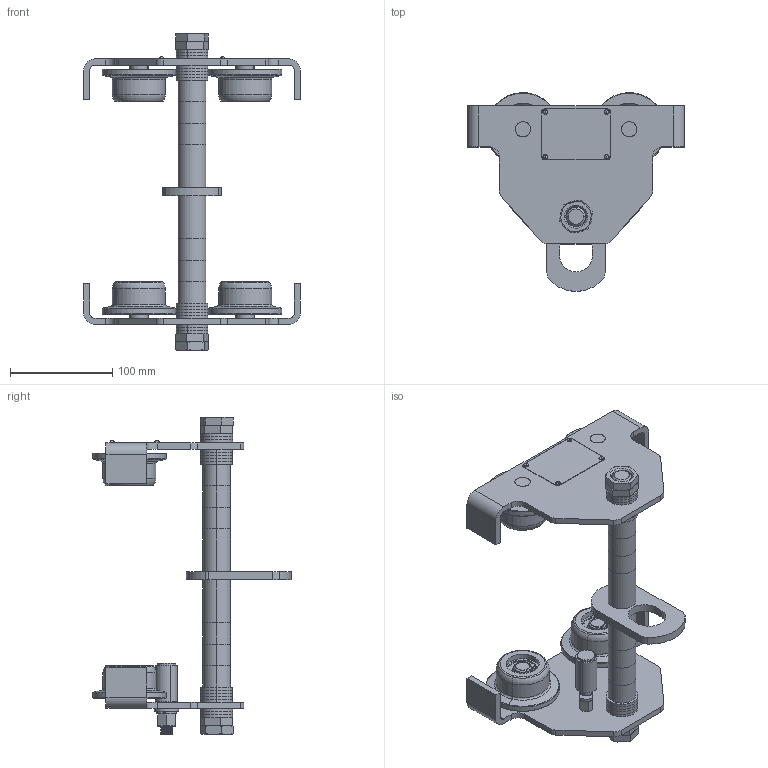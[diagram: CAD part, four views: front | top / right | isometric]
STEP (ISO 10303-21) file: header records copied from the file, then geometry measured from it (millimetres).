
FILE_DESCRIPTION (( 'STEP AP203' ), '1' );
FILE_NAME ('GCT619-0.5T軞蚾芞.STEP', '2023-02-27T01:41:41', ( '' ), ( '' ), 'SwSTEP 2.0', 'SolidWorks 2018', '' );
FILE_SCHEMA (( 'CONFIG_CONTROL_DESIGN' ));
Length unit declared in the file: millimetre
Products named in the file (25): 衵Х啣郪璃; GCT619-0.5-007裂遠; GB／T867-1986半圆头铆钉2．5×5; 植雄陬謫郪璃; GCT619-0.5-009粣創裔; GCT619-0.5-012酗境褽杶; GB893．1-86孔用弹性挡圈A型32; GB／T97．1-2002平垫圈A级12×2．5; GCL619-1TM霧齪; GCT619-0.5-010垫圈; GCT619-0.5-002左墙板; GB／T6172．1-2000六角薄螺母A级和B级M20; 酘Х啣郪璃; GB／T41-20001型六角螺母C级M12; GCT619-0.5-006傻境褽杶; GCT619-0.5-008陬謫粣; GCT619-0.5T軞蚾芞; GCT619-1-003平衡轴; GB／T859-1987轻型弹簧垫圈(装配)12×2．5; GB／T276-94深沟球轴承6201-2Z; GCT619-0.5-011植雄陬謫; GCT619-0.5-001右墙板; GCT619-0.5-005挂梁（轨宽203mm）; GCT619-1-004平衡套; GB894．1-86轴用弹性挡圈A型12
Assembly tree (60 placements, depth 3):
  GCT619-0.5T軞蚾芞
    GCT619-0.5-007裂遠
    GCT619-0.5-005挂梁（轨宽203mm）
    GCT619-0.5-006傻境褽杶  x6
    GCT619-0.5-010垫圈  x16
    GCT619-0.5-012酗境褽杶  x2
    GB／T6172．1-2000六角薄螺母A级和B级M20  x4
    衵Х啣郪璃
      GCT619-0.5-001右墙板
      GCT619-0.5-008陬謫粣  x2
      GB894．1-86轴用弹性挡圈A型12  x2
      GCL619-1TM霧齪
      GB／T867-1986半圆头铆钉2．5×5  x4
    酘Х啣郪璃
      GCT619-0.5-002左墙板
      GCT619-0.5-008陬謫粣  x2
      GB／T41-20001型六角螺母C级M12
      GB／T859-1987轻型弹簧垫圈(装配)12×2．5
      GB／T97．1-2002平垫圈A级12×2．5
      GB894．1-86轴用弹性挡圈A型12  x2
      GCT619-1-003平衡轴
      GCT619-1-004平衡套
    植雄陬謫郪璃  x4
      GCT619-0.5-011植雄陬謫
      GB／T276-94深沟球轴承6201-2Z
      GCT619-0.5-009粣創裔
      GB893．1-86孔用弹性挡圈A型32
Bounding box: 212 x 194.47 x 310.5 mm (x, y, z)
Volume: 752016.2 mm3; surface area: 321722.5 mm2
Topology: 66 solids, 66 shells, 1604 faces, 4224 edges, 2761 vertices
Faces by surface type: cylinder 654, plane 365, sphere 232, torus 192, cone 150, bspline 11
Entity records: 36181 total; most frequent: CARTESIAN_POINT 17372, ORIENTED_EDGE 3312, DIRECTION 3156, EDGE_CURVE 1656, AXIS2_PLACEMENT_3D 1320, VERTEX_POINT 1081, EDGE_LOOP 715, CIRCLE 639
